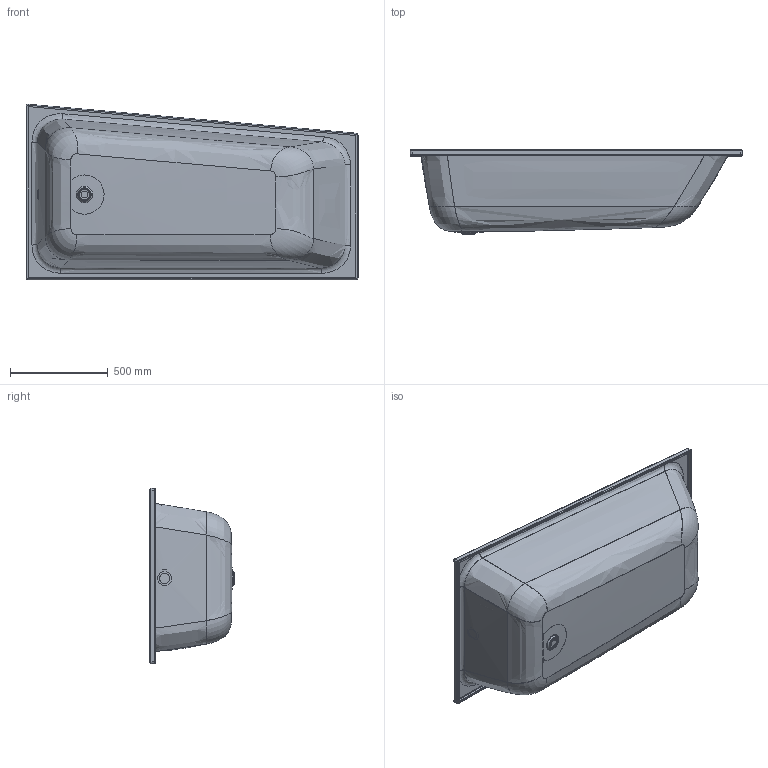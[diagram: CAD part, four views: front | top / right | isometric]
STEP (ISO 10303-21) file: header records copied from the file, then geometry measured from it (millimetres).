
FILE_DESCRIPTION((' '),'2;1');
FILE_NAME( '177f1b8c477bc0c3.stp', '2021-03-02T07:55:54', (' '), ('--- Datakit www.datakit.com---'), ' Datakit CrossCadWare V2021.1 Jan 6 2021', 'DATAKIT 2021 (c)', ' ');
FILE_SCHEMA(('CONFIG_CONTROL_DESIGN'));
Length unit declared in the file: millimetre
Products named in the file (1): 177f1b8b3c54aac3
Bounding box: 1699 x 430 x 898 mm (x, y, z)
Volume: 6566853.6 mm3; surface area: 5474733 mm2
Topology: 3 solids, 3 shells, 149 faces, 342 edges, 203 vertices
Faces by surface type: cylinder 34, torus 32, bspline 32, plane 27, offset 20, cone 4
Full cylindrical faces by diameter (mm): 35 x1, 52 x2
Entity records: 28527 total; most frequent: CARTESIAN_POINT 25565, ORIENTED_EDGE 644, DIRECTION 499, EDGE_CURVE 322, AXIS2_PLACEMENT_3D 209, VERTEX_POINT 198, EDGE_LOOP 171, ADVANCED_FACE 149
